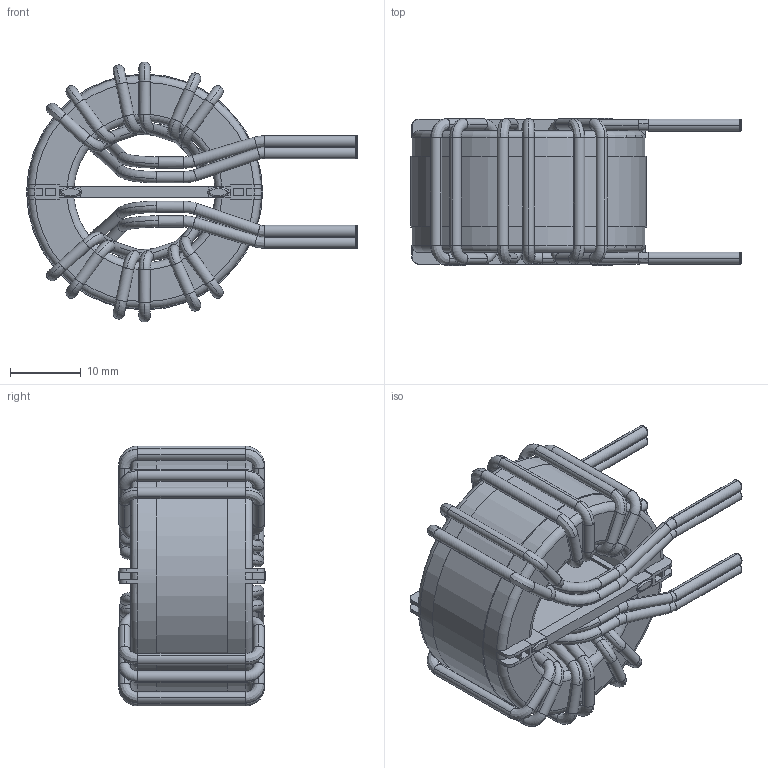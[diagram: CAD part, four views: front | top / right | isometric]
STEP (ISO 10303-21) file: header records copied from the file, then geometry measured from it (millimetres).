
FILE_DESCRIPTION (( 'STEP AP203' ), '1' );
FILE_NAME ('HN-V-142U-27A.STEP', '2020-07-11T07:46:02', ( 'Windows User' ), ( '' ), 'SwSTEP 2.0', 'SolidWorks 2015', '' );
FILE_SCHEMA (( 'CONFIG_CONTROL_DESIGN' ));
Length unit declared in the file: inch
Products named in the file (4): HN-V-142U-27A - COIL; HN-V-142U-27A - FRAME; HN-V-142U-27A - CORE; HN-V-142U-27A
Assembly tree (3 placements, depth 2):
  HN-V-142U-27A
    HN-V-142U-27A - CORE
    HN-V-142U-27A - COIL
    HN-V-142U-27A - FRAME
Bounding box: 46.77 x 20.8 x 36.76 mm (x, y, z)
Volume: 12050.9 mm3; surface area: 12570.4 mm2
Topology: 15 solids, 15 shells, 539 faces, 1439 edges, 932 vertices
Faces by surface type: cylinder 175, torus 152, plane 136, bspline 76
Entity records: 21335 total; most frequent: CARTESIAN_POINT 7516, DIRECTION 2949, ORIENTED_EDGE 2878, EDGE_CURVE 1439, AXIS2_PLACEMENT_3D 1225, VERTEX_POINT 932, CIRCLE 756, EDGE_LOOP 545
